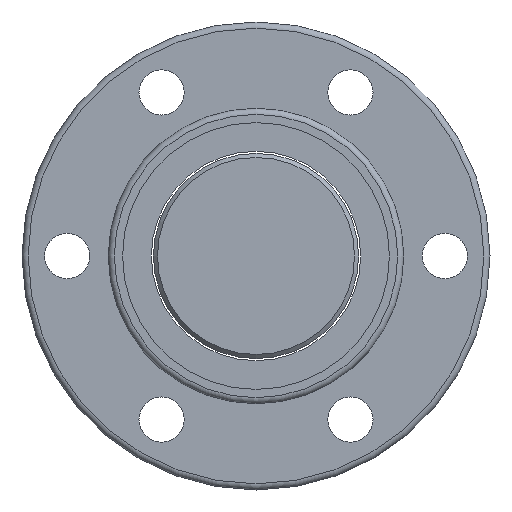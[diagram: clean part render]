
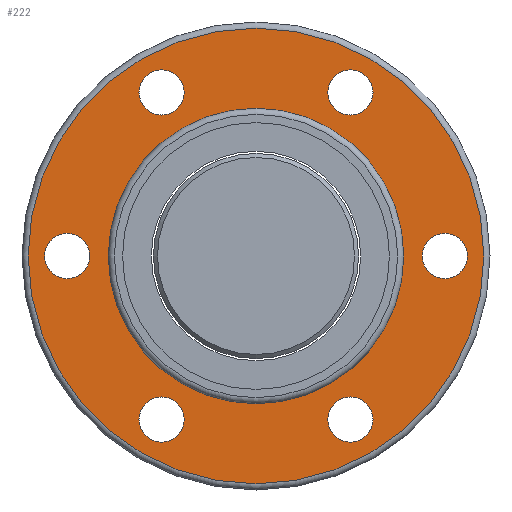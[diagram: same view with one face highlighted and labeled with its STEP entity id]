
A CAD part, left-side view. The second image highlights one B-rep face of the part: STEP entity #222.
In plain terms, the highlighted planar face has unit normal (-1, 0, 0).
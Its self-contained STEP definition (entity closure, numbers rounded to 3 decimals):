
#146=FACE_BOUND('',#313,.T.);
#147=FACE_BOUND('',#314,.T.);
#148=FACE_BOUND('',#315,.T.);
#149=FACE_BOUND('',#316,.T.);
#150=FACE_BOUND('',#317,.T.);
#151=FACE_BOUND('',#318,.T.);
#152=FACE_BOUND('',#320,.T.);
#222=ADVANCED_FACE('',(#146,#147,#148,#149,#150,#151,#278,#152),#259,.F.);
#259=PLANE('',#666);
#278=FACE_OUTER_BOUND('',#319,.T.);
#313=EDGE_LOOP('',(#411));
#314=EDGE_LOOP('',(#412));
#315=EDGE_LOOP('',(#413));
#316=EDGE_LOOP('',(#414));
#317=EDGE_LOOP('',(#415));
#318=EDGE_LOOP('',(#416));
#319=EDGE_LOOP('',(#417));
#320=EDGE_LOOP('',(#418));
#411=ORIENTED_EDGE('',*,*,#546,.T.);
#412=ORIENTED_EDGE('',*,*,#547,.T.);
#413=ORIENTED_EDGE('',*,*,#548,.T.);
#414=ORIENTED_EDGE('',*,*,#549,.T.);
#415=ORIENTED_EDGE('',*,*,#550,.T.);
#416=ORIENTED_EDGE('',*,*,#551,.T.);
#417=ORIENTED_EDGE('',*,*,#552,.F.);
#418=ORIENTED_EDGE('',*,*,#553,.T.);
#497=VERTEX_POINT('',#953);
#498=VERTEX_POINT('',#955);
#499=VERTEX_POINT('',#957);
#500=VERTEX_POINT('',#959);
#501=VERTEX_POINT('',#961);
#502=VERTEX_POINT('',#963);
#503=VERTEX_POINT('',#965);
#504=VERTEX_POINT('',#967);
#546=EDGE_CURVE('',#497,#497,#595,.T.);
#547=EDGE_CURVE('',#498,#498,#596,.T.);
#548=EDGE_CURVE('',#499,#499,#597,.T.);
#549=EDGE_CURVE('',#500,#500,#598,.T.);
#550=EDGE_CURVE('',#501,#501,#599,.T.);
#551=EDGE_CURVE('',#502,#502,#600,.T.);
#552=EDGE_CURVE('',#503,#503,#601,.T.);
#553=EDGE_CURVE('',#504,#504,#602,.T.);
#595=CIRCLE('',#658,5.5);
#596=CIRCLE('',#659,5.5);
#597=CIRCLE('',#660,5.5);
#598=CIRCLE('',#661,5.5);
#599=CIRCLE('',#662,5.5);
#600=CIRCLE('',#663,5.5);
#601=CIRCLE('',#664,55.5);
#602=CIRCLE('',#665,36.);
#658=AXIS2_PLACEMENT_3D('',#952,#778,#779);
#659=AXIS2_PLACEMENT_3D('',#954,#780,#781);
#660=AXIS2_PLACEMENT_3D('',#956,#782,#783);
#661=AXIS2_PLACEMENT_3D('',#958,#784,#785);
#662=AXIS2_PLACEMENT_3D('',#960,#786,#787);
#663=AXIS2_PLACEMENT_3D('',#962,#788,#789);
#664=AXIS2_PLACEMENT_3D('',#964,#790,#791);
#665=AXIS2_PLACEMENT_3D('',#966,#792,#793);
#666=AXIS2_PLACEMENT_3D('',#968,#794,#795);
#778=DIRECTION('',(1.,0.,0.));
#779=DIRECTION('',(0.,0.,-1.));
#780=DIRECTION('',(1.,0.,0.));
#781=DIRECTION('',(0.,0.,-1.));
#782=DIRECTION('',(1.,0.,0.));
#783=DIRECTION('',(0.,0.,-1.));
#784=DIRECTION('',(1.,0.,0.));
#785=DIRECTION('',(0.,0.,-1.));
#786=DIRECTION('',(1.,0.,0.));
#787=DIRECTION('',(0.,0.,-1.));
#788=DIRECTION('',(1.,0.,0.));
#789=DIRECTION('',(0.,0.,-1.));
#790=DIRECTION('',(1.,0.,0.));
#791=DIRECTION('',(0.,0.,-1.));
#792=DIRECTION('',(1.,0.,0.));
#793=DIRECTION('',(0.,0.,-1.));
#794=DIRECTION('',(1.,0.,0.));
#795=DIRECTION('',(0.,0.,-1.));
#952=CARTESIAN_POINT('',(-38.,46.,0.));
#953=CARTESIAN_POINT('',(-38.,46.,-5.5));
#954=CARTESIAN_POINT('',(-38.,-46.,0.));
#955=CARTESIAN_POINT('',(-38.,-46.,-5.5));
#956=CARTESIAN_POINT('',(-38.,23.,-39.84));
#957=CARTESIAN_POINT('',(-38.,23.,-45.34));
#958=CARTESIAN_POINT('',(-38.,-23.,-39.84));
#959=CARTESIAN_POINT('',(-38.,-23.,-45.34));
#960=CARTESIAN_POINT('',(-38.,-23.,39.84));
#961=CARTESIAN_POINT('',(-38.,-23.,34.34));
#962=CARTESIAN_POINT('',(-38.,23.,39.84));
#963=CARTESIAN_POINT('',(-38.,23.,34.34));
#964=CARTESIAN_POINT('',(-38.,0.,0.));
#965=CARTESIAN_POINT('',(-38.,0.,-55.5));
#966=CARTESIAN_POINT('',(-38.,0.,0.));
#967=CARTESIAN_POINT('',(-38.,0.,-36.));
#968=CARTESIAN_POINT('',(-38.,45.75,0.));
